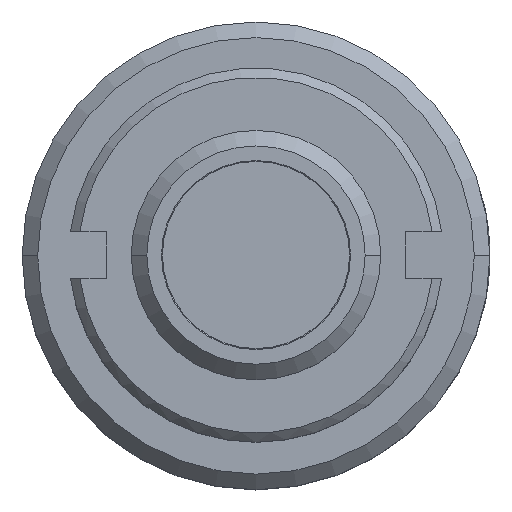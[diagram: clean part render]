
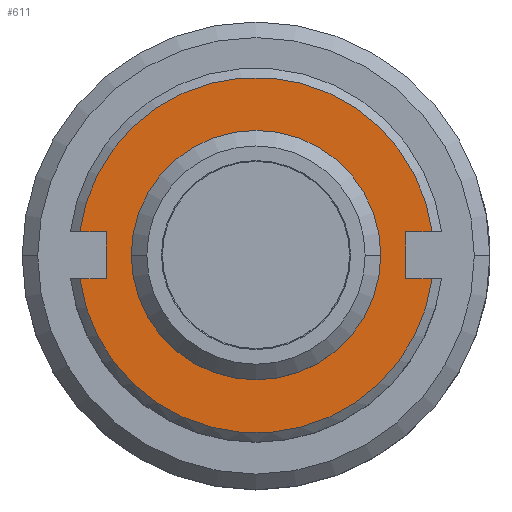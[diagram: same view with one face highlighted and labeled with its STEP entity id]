
A CAD part, top view. The second image highlights one B-rep face of the part: STEP entity #611.
In plain terms, the highlighted planar face has unit normal (0, 0, 1).
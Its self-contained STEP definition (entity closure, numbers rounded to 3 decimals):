
#2 = EDGE_CURVE ( 'NONE', #29, #21, #832, .T. ) ;
#21 = VERTEX_POINT ( 'NONE', #865 ) ;
#29 = VERTEX_POINT ( 'NONE', #912 ) ;
#507 = EDGE_CURVE ( 'NONE', #21, #29, #1851, .T. ) ;
#551 = VERTEX_POINT ( 'NONE', #1905 ) ;
#553 = EDGE_CURVE ( 'NONE', #551, #554, #1970, .T. ) ;
#554 = VERTEX_POINT ( 'NONE', #1966 ) ;
#566 = VERTEX_POINT ( 'NONE', #1953 ) ;
#568 = EDGE_CURVE ( 'NONE', #566, #569, #1952, .T. ) ;
#569 = VERTEX_POINT ( 'NONE', #1948 ) ;
#594 = ORIENTED_EDGE ( 'NONE', *, *, #553, .F. ) ;
#595 = ORIENTED_EDGE ( 'NONE', *, *, #596, .T. ) ;
#596 = EDGE_CURVE ( 'NONE', #551, #597, #1983, .T. ) ;
#597 = VERTEX_POINT ( 'NONE', #1979 ) ;
#598 = ORIENTED_EDGE ( 'NONE', *, *, #599, .F. ) ;
#599 = EDGE_CURVE ( 'NONE', #600, #597, #1977, .T. ) ;
#600 = VERTEX_POINT ( 'NONE', #2037 ) ;
#601 = ORIENTED_EDGE ( 'NONE', *, *, #602, .T. ) ;
#602 = EDGE_CURVE ( 'NONE', #600, #569, #2036, .T. ) ;
#603 = EDGE_LOOP ( 'NONE', ( #604, #605 ) ) ;
#604 = ORIENTED_EDGE ( 'NONE', *, *, #2, .F. ) ;
#605 = ORIENTED_EDGE ( 'NONE', *, *, #507, .F. ) ;
#611 = ADVANCED_FACE ( 'NONE', ( #2017, #2016 ), #2015, .F. ) ;
#612 = EDGE_LOOP ( 'NONE', ( #613, #614, #617, #620, #594, #595, #598, #601 ) ) ;
#613 = ORIENTED_EDGE ( 'NONE', *, *, #568, .F. ) ;
#614 = ORIENTED_EDGE ( 'NONE', *, *, #615, .T. ) ;
#615 = EDGE_CURVE ( 'NONE', #566, #616, #2010, .T. ) ;
#616 = VERTEX_POINT ( 'NONE', #2006 ) ;
#617 = ORIENTED_EDGE ( 'NONE', *, *, #618, .F. ) ;
#618 = EDGE_CURVE ( 'NONE', #619, #616, #2067, .T. ) ;
#619 = VERTEX_POINT ( 'NONE', #2062 ) ;
#620 = ORIENTED_EDGE ( 'NONE', *, *, #621, .T. ) ;
#621 = EDGE_CURVE ( 'NONE', #619, #554, #2061, .T. ) ;
#828 = DIRECTION ( 'NONE',  ( 1., 0., 0. ) ) ;
#829 = DIRECTION ( 'NONE',  ( 0., 0., 1. ) ) ;
#830 = CARTESIAN_POINT ( 'NONE',  ( -14.418, -2.212, 16.671 ) ) ;
#831 = AXIS2_PLACEMENT_3D ( 'NONE', #830, #829, #828 ) ;
#832 = CIRCLE ( 'NONE', #831, 4. ) ;
#865 = CARTESIAN_POINT ( 'NONE',  ( -18.418, -2.212, 16.671 ) ) ;
#912 = CARTESIAN_POINT ( 'NONE',  ( -10.418, -2.212, 16.671 ) ) ;
#1847 = DIRECTION ( 'NONE',  ( 1., 0., 0. ) ) ;
#1848 = DIRECTION ( 'NONE',  ( 0., 0., 1. ) ) ;
#1849 = CARTESIAN_POINT ( 'NONE',  ( -14.418, -2.212, 16.671 ) ) ;
#1850 = AXIS2_PLACEMENT_3D ( 'NONE', #1849, #1848, #1847 ) ;
#1851 = CIRCLE ( 'NONE', #1850, 4. ) ;
#1905 = CARTESIAN_POINT ( 'NONE',  ( -9.618, -1.462, 16.671 ) ) ;
#1948 = CARTESIAN_POINT ( 'NONE',  ( -19.218, -1.462, 16.671 ) ) ;
#1949 = DIRECTION ( 'NONE',  ( 0., 1., 0. ) ) ;
#1950 = VECTOR ( 'NONE', #1949, 1000. ) ;
#1951 = CARTESIAN_POINT ( 'NONE',  ( -19.218, -2.212, 16.671 ) ) ;
#1952 = LINE ( 'NONE', #1951, #1950 ) ;
#1953 = CARTESIAN_POINT ( 'NONE',  ( -19.218, -2.962, 16.671 ) ) ;
#1966 = CARTESIAN_POINT ( 'NONE',  ( -9.618, -2.962, 16.671 ) ) ;
#1967 = DIRECTION ( 'NONE',  ( 0., -1., 0. ) ) ;
#1968 = VECTOR ( 'NONE', #1967, 1000. ) ;
#1969 = CARTESIAN_POINT ( 'NONE',  ( -9.618, -2.212, 16.671 ) ) ;
#1970 = LINE ( 'NONE', #1969, #1968 ) ;
#1973 = DIRECTION ( 'NONE',  ( -1., 0., 0. ) ) ;
#1974 = DIRECTION ( 'NONE',  ( 0., 0., -1. ) ) ;
#1975 = CARTESIAN_POINT ( 'NONE',  ( -14.418, -2.212, 16.671 ) ) ;
#1976 = AXIS2_PLACEMENT_3D ( 'NONE', #1975, #1974, #1973 ) ;
#1977 = CIRCLE ( 'NONE', #1976, 5.7 ) ;
#1979 = CARTESIAN_POINT ( 'NONE',  ( -8.767, -1.462, 16.671 ) ) ;
#1980 = DIRECTION ( 'NONE',  ( 1., 0., 0. ) ) ;
#1981 = VECTOR ( 'NONE', #1980, 1000. ) ;
#1982 = CARTESIAN_POINT ( 'NONE',  ( -7.239, -1.462, 16.671 ) ) ;
#1983 = LINE ( 'NONE', #1982, #1981 ) ;
#2006 = CARTESIAN_POINT ( 'NONE',  ( -20.068, -2.962, 16.671 ) ) ;
#2007 = DIRECTION ( 'NONE',  ( -1., 0., 0. ) ) ;
#2008 = VECTOR ( 'NONE', #2007, 1000. ) ;
#2009 = CARTESIAN_POINT ( 'NONE',  ( -21.053, -2.962, 16.671 ) ) ;
#2010 = LINE ( 'NONE', #2009, #2008 ) ;
#2011 = DIRECTION ( 'NONE',  ( 0., 1., 0. ) ) ;
#2012 = DIRECTION ( 'NONE',  ( 0., 0., -1. ) ) ;
#2013 = CARTESIAN_POINT ( 'NONE',  ( -14.418, -2.212, 16.671 ) ) ;
#2014 = AXIS2_PLACEMENT_3D ( 'NONE', #2013, #2012, #2011 ) ;
#2015 = PLANE ( 'NONE',  #2014 ) ;
#2016 = FACE_BOUND ( 'NONE', #603, .T. ) ;
#2017 = FACE_OUTER_BOUND ( 'NONE', #612, .T. ) ;
#2033 = DIRECTION ( 'NONE',  ( 1., 0., 0. ) ) ;
#2034 = VECTOR ( 'NONE', #2033, 1000. ) ;
#2035 = CARTESIAN_POINT ( 'NONE',  ( -19.218, -1.462, 16.671 ) ) ;
#2036 = LINE ( 'NONE', #2035, #2034 ) ;
#2037 = CARTESIAN_POINT ( 'NONE',  ( -20.068, -1.462, 16.671 ) ) ;
#2058 = DIRECTION ( 'NONE',  ( -1., 0., 0. ) ) ;
#2059 = VECTOR ( 'NONE', #2058, 1000. ) ;
#2060 = CARTESIAN_POINT ( 'NONE',  ( -9.618, -2.962, 16.671 ) ) ;
#2061 = LINE ( 'NONE', #2060, #2059 ) ;
#2062 = CARTESIAN_POINT ( 'NONE',  ( -8.767, -2.962, 16.671 ) ) ;
#2063 = DIRECTION ( 'NONE',  ( -1., 0., 0. ) ) ;
#2064 = DIRECTION ( 'NONE',  ( 0., 0., -1. ) ) ;
#2065 = CARTESIAN_POINT ( 'NONE',  ( -14.418, -2.212, 16.671 ) ) ;
#2066 = AXIS2_PLACEMENT_3D ( 'NONE', #2065, #2064, #2063 ) ;
#2067 = CIRCLE ( 'NONE', #2066, 5.7 ) ;
